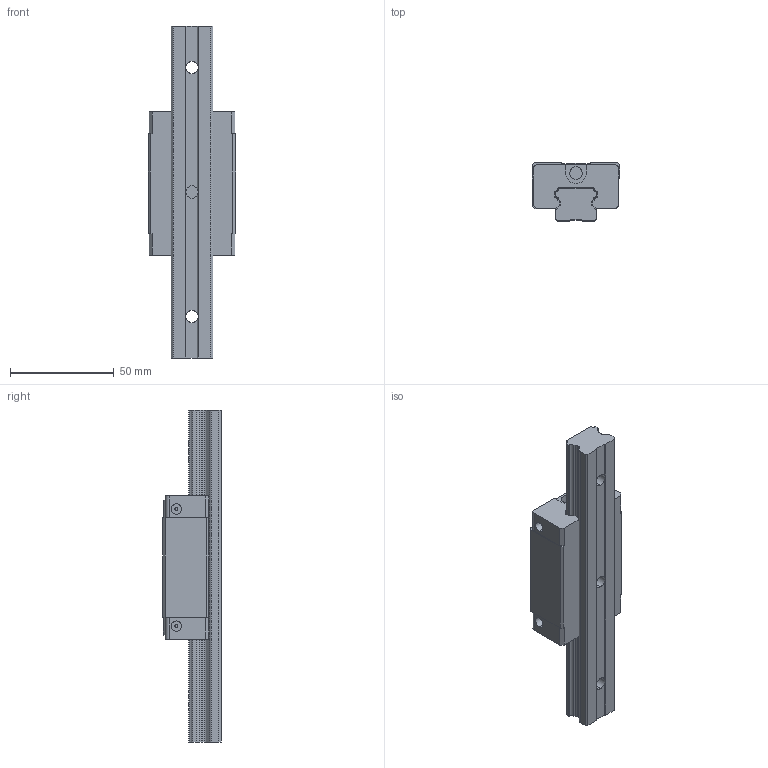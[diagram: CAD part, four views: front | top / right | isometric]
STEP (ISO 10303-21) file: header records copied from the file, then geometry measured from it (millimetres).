
FILE_DESCRIPTION((''),'2;1');
FILE_NAME('QEH20CA_ASM','2008-07-11T',('brianyu'),(''),'PRO/ENGINEER BY PARAMETRIC TECHNOLOGY CORPORATION, 2004360','PRO/ENGINEER BY PARAMETRIC TECHNOLOGY CORPORATION, 2004360','');
FILE_SCHEMA(('CONFIG_CONTROL_DESIGN'));
Length unit declared in the file: millimetre
Products named in the file (4): QEH20CA_BLOCK_AF0; QER20_RAIL_AF0; QEH20CA_ASM_AF0_ASM; QEH20CA_ASM
Assembly tree (3 placements, depth 3):
  QEH20CA_ASM
    QEH20CA_ASM_AF0_ASM
      QEH20CA_BLOCK_AF0
      QER20_RAIL_AF0
Bounding box: 42 x 28 x 160 mm (x, y, z)
Volume: 91362.5 mm3; surface area: 26152.2 mm2
Topology: 2 solids, 2 shells, 268 faces, 745 edges, 499 vertices
Faces by surface type: plane 134, cylinder 109, extrusion 17, cone 8
Entity records: 8965 total; most frequent: CARTESIAN_POINT 1785, ORIENTED_EDGE 1490, DIRECTION 1476, EDGE_CURVE 745, VERTEX_POINT 499, VECTOR 496, AXIS2_PLACEMENT_3D 490, LINE 479
